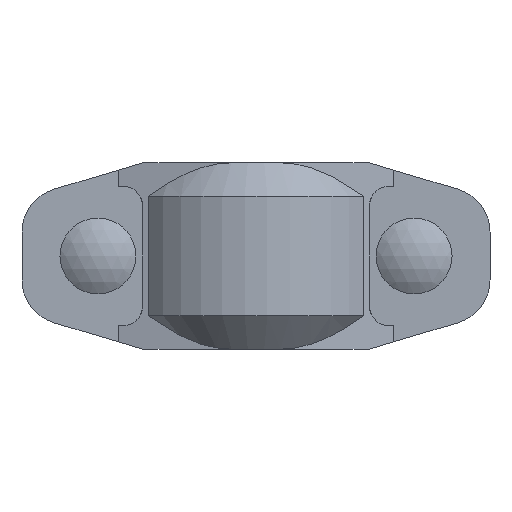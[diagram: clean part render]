
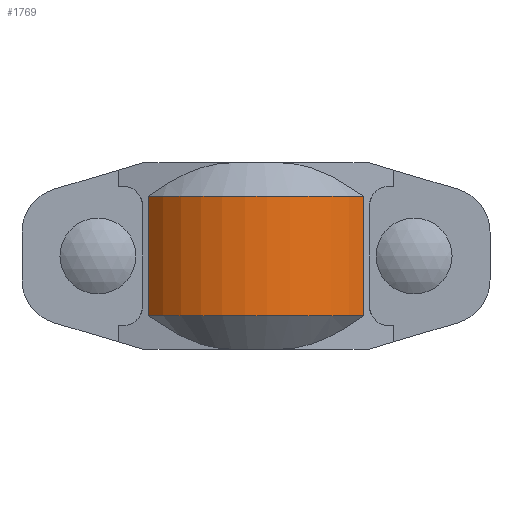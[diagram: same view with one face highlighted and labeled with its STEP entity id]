
A CAD part, front view. The second image highlights one B-rep face of the part: STEP entity #1769.
In plain terms, the highlighted cylindrical face has radius 34.163 mm (diameter 68.326 mm), a partial arc.
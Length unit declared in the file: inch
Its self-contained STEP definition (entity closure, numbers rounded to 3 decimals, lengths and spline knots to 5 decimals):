
#206=FACE_OUTER_BOUND('',#303,.T.);
#303=EDGE_LOOP('',(#1497,#1498,#1499,#1500));
#378=LINE('',#2666,#535);
#434=LINE('',#2829,#591);
#535=VECTOR('',#2139,0.3937);
#591=VECTOR('',#2271,0.3937);
#677=CIRCLE('',#1911,1.345);
#681=CIRCLE('',#1918,1.345);
#764=VERTEX_POINT('',#2661);
#765=VERTEX_POINT('',#2665);
#821=VERTEX_POINT('',#2824);
#822=VERTEX_POINT('',#2828);
#946=EDGE_CURVE('',#765,#764,#378,.T.);
#1021=EDGE_CURVE('',#822,#821,#434,.T.);
#1042=EDGE_CURVE('',#764,#822,#677,.T.);
#1049=EDGE_CURVE('',#765,#821,#681,.T.);
#1497=ORIENTED_EDGE('',*,*,#946,.T.);
#1498=ORIENTED_EDGE('',*,*,#1042,.T.);
#1499=ORIENTED_EDGE('',*,*,#1021,.T.);
#1500=ORIENTED_EDGE('',*,*,#1049,.F.);
#1601=CYLINDRICAL_SURFACE('',#1935,1.345);
#1769=ADVANCED_FACE('',(#206),#1601,.T.);
#1911=AXIS2_PLACEMENT_3D('',#2866,#2310,#2311);
#1918=AXIS2_PLACEMENT_3D('',#2880,#2327,#2328);
#1935=AXIS2_PLACEMENT_3D('',#2919,#2375,#2376);
#2139=DIRECTION('',(0.,0.,1.));
#2271=DIRECTION('',(0.,0.,-1.));
#2310=DIRECTION('center_axis',(0.,0.,-1.));
#2311=DIRECTION('ref_axis',(0.,-1.,0.));
#2327=DIRECTION('center_axis',(0.,0.,-1.));
#2328=DIRECTION('ref_axis',(0.,-1.,0.));
#2375=DIRECTION('center_axis',(0.,0.,-1.));
#2376=DIRECTION('ref_axis',(0.,-1.,0.));
#2661=CARTESIAN_POINT('',(1.06605,-0.82009,0.59));
#2665=CARTESIAN_POINT('',(1.06605,-0.82009,-0.59));
#2666=CARTESIAN_POINT('',(1.06605,-0.82009,0.));
#2824=CARTESIAN_POINT('',(-1.06605,-0.82009,-0.59));
#2828=CARTESIAN_POINT('',(-1.06605,-0.82009,0.59));
#2829=CARTESIAN_POINT('',(-1.06605,-0.82009,0.));
#2866=CARTESIAN_POINT('Origin',(0.,0.,0.59));
#2880=CARTESIAN_POINT('Origin',(0.,0.,-0.59));
#2919=CARTESIAN_POINT('Origin',(0.,0.,0.));
